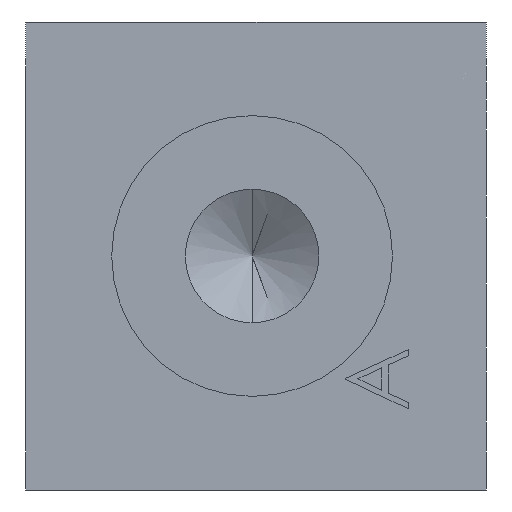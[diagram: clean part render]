
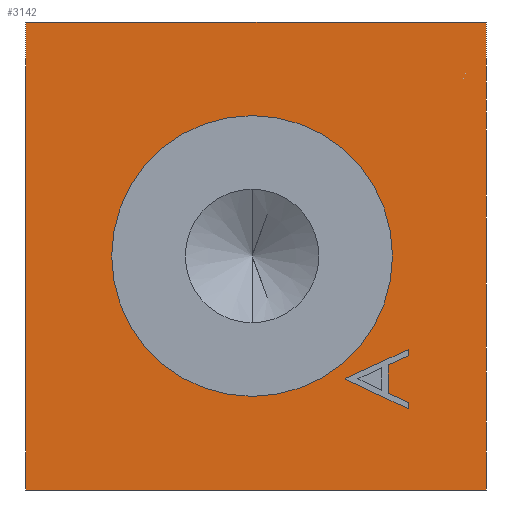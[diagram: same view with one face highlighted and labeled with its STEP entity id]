
A CAD part, left-side view. The second image highlights one B-rep face of the part: STEP entity #3142.
In plain terms, the highlighted planar face has unit normal (-1, 0, 0).
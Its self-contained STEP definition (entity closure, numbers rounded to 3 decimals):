
#6 = EDGE_CURVE ( 'NONE', #2211, #1719, #1436, .T. ) ;
#24 = VERTEX_POINT ( 'NONE', #2964 ) ;
#51 = EDGE_CURVE ( 'NONE', #2137, #612, #952, .T. ) ;
#53 = VERTEX_POINT ( 'NONE', #921 ) ;
#129 = CIRCLE ( 'NONE', #2207, 9. ) ;
#204 = EDGE_LOOP ( 'NONE', ( #604, #3208, #1083, #2086 ) ) ;
#264 = DIRECTION ( 'NONE',  ( 0., 0., -1. ) ) ;
#302 = VECTOR ( 'NONE', #706, 1000. ) ;
#325 = VERTEX_POINT ( 'NONE', #2416 ) ;
#344 = CARTESIAN_POINT ( 'NONE',  ( 0., -8.468, -8.795 ) ) ;
#431 = CARTESIAN_POINT ( 'NONE',  ( 0., -9.75, -6. ) ) ;
#470 = CARTESIAN_POINT ( 'NONE',  ( 0., -14.75, -15. ) ) ;
#567 = CARTESIAN_POINT ( 'NONE',  ( 0., -9.75, -6. ) ) ;
#575 = ORIENTED_EDGE ( 'NONE', *, *, #1140, .T. ) ;
#597 = VECTOR ( 'NONE', #1167, 1000. ) ;
#604 = ORIENTED_EDGE ( 'NONE', *, *, #51, .F. ) ;
#612 = VERTEX_POINT ( 'NONE', #1944 ) ;
#620 = VECTOR ( 'NONE', #2190, 1000. ) ;
#645 = EDGE_CURVE ( 'NONE', #325, #53, #3202, .T. ) ;
#657 = PLANE ( 'NONE',  #1394 ) ;
#662 = EDGE_CURVE ( 'NONE', #2661, #896, #3121, .T. ) ;
#673 = LINE ( 'NONE', #1748, #1955 ) ;
#706 = DIRECTION ( 'NONE',  ( 0., 0., -1. ) ) ;
#714 = DIRECTION ( 'NONE',  ( -1., 0., 0. ) ) ;
#725 = VERTEX_POINT ( 'NONE', #1196 ) ;
#727 = DIRECTION ( 'NONE',  ( 0., 0.908, -0.419 ) ) ;
#752 = EDGE_CURVE ( 'NONE', #53, #2334, #1060, .T. ) ;
#758 = VECTOR ( 'NONE', #1840, 1000. ) ;
#838 = CARTESIAN_POINT ( 'NONE',  ( 0., 0.25, 0. ) ) ;
#885 = VERTEX_POINT ( 'NONE', #1286 ) ;
#896 = VERTEX_POINT ( 'NONE', #1546 ) ;
#904 = ORIENTED_EDGE ( 'NONE', *, *, #2772, .F. ) ;
#905 = LINE ( 'NONE', #2258, #2113 ) ;
#921 = CARTESIAN_POINT ( 'NONE',  ( 0., -5.75, -7.897 ) ) ;
#950 = CARTESIAN_POINT ( 'NONE',  ( 0., -8.468, -8.795 ) ) ;
#952 = LINE ( 'NONE', #2729, #597 ) ;
#968 = VECTOR ( 'NONE', #1066, 1000. ) ;
#973 = CARTESIAN_POINT ( 'NONE',  ( 0., -5.75, -7.897 ) ) ;
#1008 = DIRECTION ( 'NONE',  ( -1., 0., 0. ) ) ;
#1060 = LINE ( 'NONE', #973, #2968 ) ;
#1066 = DIRECTION ( 'NONE',  ( 0., 0., 1. ) ) ;
#1083 = ORIENTED_EDGE ( 'NONE', *, *, #2586, .F. ) ;
#1102 = CARTESIAN_POINT ( 'NONE',  ( 0., -5.75, -7.846 ) ) ;
#1111 = VERTEX_POINT ( 'NONE', #1183 ) ;
#1139 = VECTOR ( 'NONE', #2749, 1000. ) ;
#1140 = EDGE_CURVE ( 'NONE', #2547, #2661, #2277, .T. ) ;
#1167 = DIRECTION ( 'NONE',  ( 0., 1., 0. ) ) ;
#1172 = LINE ( 'NONE', #1789, #3241 ) ;
#1179 = CARTESIAN_POINT ( 'NONE',  ( 0., -14.75, 15. ) ) ;
#1180 = CARTESIAN_POINT ( 'NONE',  ( 0., -9.75, -6.39 ) ) ;
#1183 = CARTESIAN_POINT ( 'NONE',  ( 0., -14.75, 15. ) ) ;
#1185 = CARTESIAN_POINT ( 'NONE',  ( 0., -9.75, -9.795 ) ) ;
#1187 = ORIENTED_EDGE ( 'NONE', *, *, #1333, .T. ) ;
#1196 = CARTESIAN_POINT ( 'NONE',  ( 0., 14.75, 15. ) ) ;
#1221 = EDGE_CURVE ( 'NONE', #1111, #2137, #905, .T. ) ;
#1271 = EDGE_LOOP ( 'NONE', ( #1520, #1957, #2542, #3098, #2369, #575, #1605, #1187 ) ) ;
#1278 = EDGE_CURVE ( 'NONE', #1719, #2547, #673, .T. ) ;
#1286 = CARTESIAN_POINT ( 'NONE',  ( 0., 0.25, 9. ) ) ;
#1333 = EDGE_CURVE ( 'NONE', #896, #325, #1172, .T. ) ;
#1367 = FACE_BOUND ( 'NONE', #1271, .T. ) ;
#1370 = LINE ( 'NONE', #1179, #620 ) ;
#1371 = DIRECTION ( 'NONE',  ( 0., -0.908, 0.419 ) ) ;
#1394 = AXIS2_PLACEMENT_3D ( 'NONE', #2975, #1008, #3230 ) ;
#1436 = LINE ( 'NONE', #567, #758 ) ;
#1520 = ORIENTED_EDGE ( 'NONE', *, *, #645, .T. ) ;
#1546 = CARTESIAN_POINT ( 'NONE',  ( 0., -9.75, -9.403 ) ) ;
#1564 = CARTESIAN_POINT ( 'NONE',  ( 0., 14.75, 15. ) ) ;
#1575 = CIRCLE ( 'NONE', #3236, 9. ) ;
#1605 = ORIENTED_EDGE ( 'NONE', *, *, #662, .T. ) ;
#1664 = CARTESIAN_POINT ( 'NONE',  ( 0., -5.75, -7.846 ) ) ;
#1719 = VERTEX_POINT ( 'NONE', #1180 ) ;
#1748 = CARTESIAN_POINT ( 'NONE',  ( 0., -9.75, -6.39 ) ) ;
#1789 = CARTESIAN_POINT ( 'NONE',  ( 0., -9.75, -9.403 ) ) ;
#1827 = VECTOR ( 'NONE', #2496, 1000. ) ;
#1840 = DIRECTION ( 'NONE',  ( 0., 0., -1. ) ) ;
#1864 = DIRECTION ( 'NONE',  ( -1., 0., 0. ) ) ;
#1902 = VECTOR ( 'NONE', #1371, 1000. ) ;
#1944 = CARTESIAN_POINT ( 'NONE',  ( 0., 14.75, -15. ) ) ;
#1955 = VECTOR ( 'NONE', #727, 1000. ) ;
#1957 = ORIENTED_EDGE ( 'NONE', *, *, #752, .T. ) ;
#1985 = FACE_BOUND ( 'NONE', #2583, .T. ) ;
#1988 = LINE ( 'NONE', #1664, #1902 ) ;
#2008 = ORIENTED_EDGE ( 'NONE', *, *, #2739, .F. ) ;
#2058 = FACE_OUTER_BOUND ( 'NONE', #204, .T. ) ;
#2086 = ORIENTED_EDGE ( 'NONE', *, *, #3302, .F. ) ;
#2113 = VECTOR ( 'NONE', #3282, 1000. ) ;
#2137 = VERTEX_POINT ( 'NONE', #470 ) ;
#2190 = DIRECTION ( 'NONE',  ( 0., -1., 0. ) ) ;
#2207 = AXIS2_PLACEMENT_3D ( 'NONE', #3024, #1864, #2766 ) ;
#2211 = VERTEX_POINT ( 'NONE', #431 ) ;
#2246 = CARTESIAN_POINT ( 'NONE',  ( 0., -8.468, -6.982 ) ) ;
#2258 = CARTESIAN_POINT ( 'NONE',  ( 0., -14.75, 15. ) ) ;
#2277 = LINE ( 'NONE', #2246, #302 ) ;
#2334 = VERTEX_POINT ( 'NONE', #1102 ) ;
#2342 = LINE ( 'NONE', #1564, #968 ) ;
#2369 = ORIENTED_EDGE ( 'NONE', *, *, #1278, .T. ) ;
#2385 = DIRECTION ( 'NONE',  ( 0., 0., 1. ) ) ;
#2416 = CARTESIAN_POINT ( 'NONE',  ( 0., -9.75, -9.795 ) ) ;
#2496 = DIRECTION ( 'NONE',  ( 0., -0.903, -0.429 ) ) ;
#2542 = ORIENTED_EDGE ( 'NONE', *, *, #2604, .T. ) ;
#2547 = VERTEX_POINT ( 'NONE', #2730 ) ;
#2583 = EDGE_LOOP ( 'NONE', ( #904, #2008 ) ) ;
#2586 = EDGE_CURVE ( 'NONE', #725, #1111, #1370, .T. ) ;
#2604 = EDGE_CURVE ( 'NONE', #2334, #2211, #1988, .T. ) ;
#2661 = VERTEX_POINT ( 'NONE', #344 ) ;
#2729 = CARTESIAN_POINT ( 'NONE',  ( 0., -14.75, -15. ) ) ;
#2730 = CARTESIAN_POINT ( 'NONE',  ( 0., -8.468, -6.982 ) ) ;
#2739 = EDGE_CURVE ( 'NONE', #24, #885, #1575, .T. ) ;
#2749 = DIRECTION ( 'NONE',  ( 0., 0.904, 0.429 ) ) ;
#2766 = DIRECTION ( 'NONE',  ( 0., 0., 1. ) ) ;
#2772 = EDGE_CURVE ( 'NONE', #885, #24, #129, .T. ) ;
#2777 = DIRECTION ( 'NONE',  ( 0., 0., 1. ) ) ;
#2964 = CARTESIAN_POINT ( 'NONE',  ( 0., 0.25, -9. ) ) ;
#2968 = VECTOR ( 'NONE', #2777, 1000. ) ;
#2975 = CARTESIAN_POINT ( 'NONE',  ( 0., 14.75, -15. ) ) ;
#3024 = CARTESIAN_POINT ( 'NONE',  ( 0., 0.25, 0. ) ) ;
#3098 = ORIENTED_EDGE ( 'NONE', *, *, #6, .T. ) ;
#3121 = LINE ( 'NONE', #950, #1827 ) ;
#3142 = ADVANCED_FACE ( 'NONE', ( #2058, #1985, #1367 ), #657, .T. ) ;
#3202 = LINE ( 'NONE', #1185, #1139 ) ;
#3208 = ORIENTED_EDGE ( 'NONE', *, *, #1221, .F. ) ;
#3230 = DIRECTION ( 'NONE',  ( 0., 0., 1. ) ) ;
#3236 = AXIS2_PLACEMENT_3D ( 'NONE', #838, #714, #2385 ) ;
#3241 = VECTOR ( 'NONE', #264, 1000. ) ;
#3282 = DIRECTION ( 'NONE',  ( 0., 0., -1. ) ) ;
#3302 = EDGE_CURVE ( 'NONE', #612, #725, #2342, .T. ) ;
